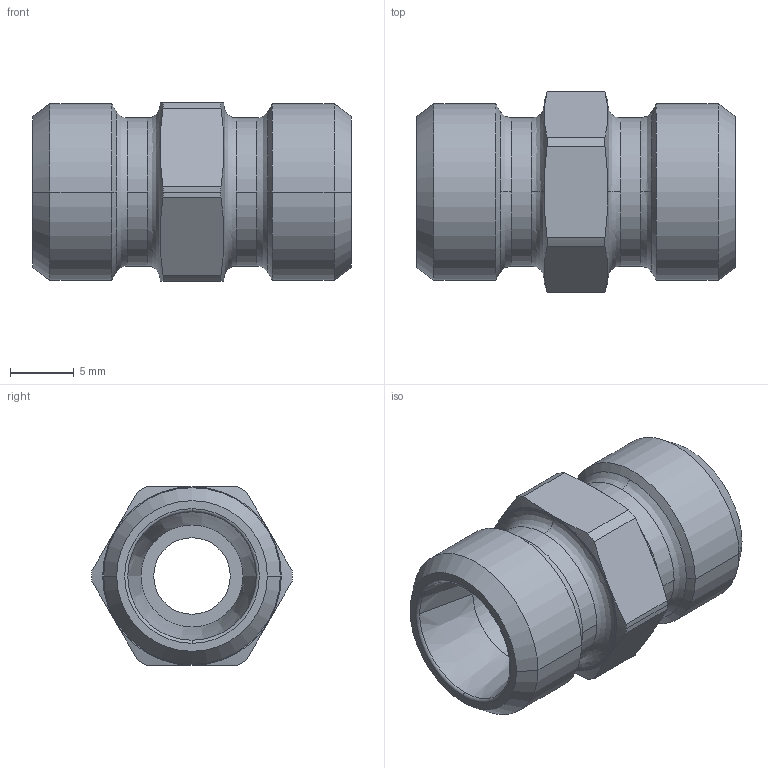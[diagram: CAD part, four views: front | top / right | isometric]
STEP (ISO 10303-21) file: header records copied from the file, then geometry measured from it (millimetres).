
FILE_DESCRIPTION((''),'2;1');
FILE_NAME('103505.stp','2007-10-31T11:34:43',(''),(''),'AutoCAD STEP 2000i','AutoCAD 2000i',', , ');
FILE_SCHEMA(('CONFIG_CONTROL_DESIGN'));
Length unit declared in the file: millimetre
Products named in the file (2): 103505.0; CHIAVE SMUSSATA#0
Assembly tree (1 placements, depth 2):
  103505.0
    CHIAVE SMUSSATA#0
Bounding box: 25 x 15.7 x 14 mm (x, y, z)
Volume: 2334.9 mm3; surface area: 1910.3 mm2
Topology: 1 solids, 1 shells, 70 faces, 172 edges, 108 vertices
Faces by surface type: cone 24, cylinder 22, plane 12, bspline 8, torus 4
Entity records: 2513 total; most frequent: CARTESIAN_POINT 752, DIRECTION 384, ORIENTED_EDGE 344, AXIS2_PLACEMENT_3D 172, EDGE_CURVE 172, VERTEX_POINT 108, CIRCLE 108, EDGE_LOOP 76
